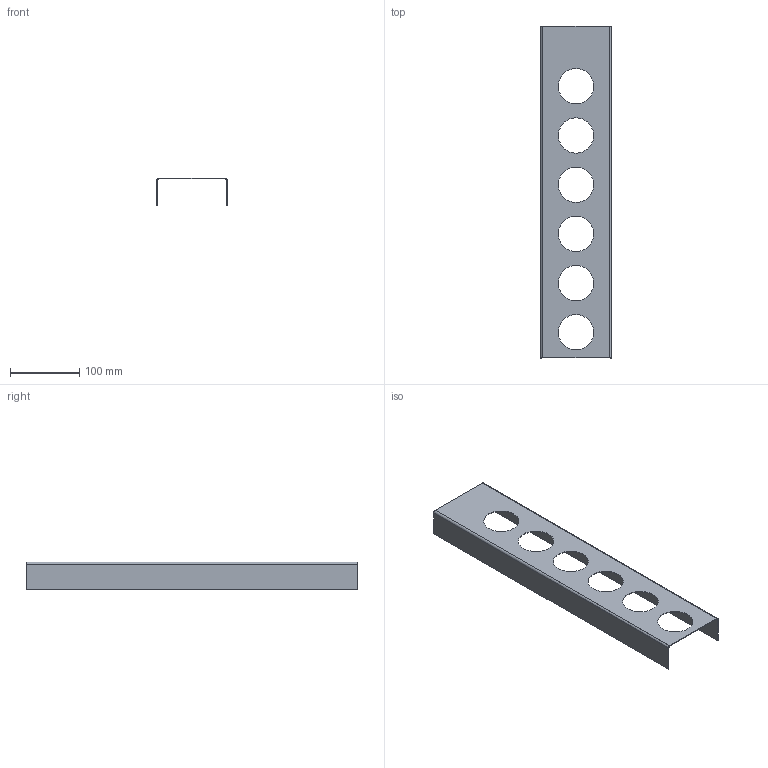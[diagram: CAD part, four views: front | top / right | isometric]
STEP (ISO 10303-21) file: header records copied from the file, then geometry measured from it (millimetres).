
FILE_DESCRIPTION (( 'STEP AP214' ), '1' );
FILE_NAME ('Gewuerzeinsatz_68307-01.STEP', '2010-11-04T09:22:53', ( 'grass' ), ( '' ), 'SwSTEP 2.0', 'SolidWorks 2010', '' );
FILE_SCHEMA (( 'AUTOMOTIVE_DESIGN' ));
Length unit declared in the file: millimetre
Products named in the file (1): Gewuerzeinsatz_68307-01
Bounding box: 102 x 479 x 40 mm (x, y, z)
Volume: 72935.1 mm3; surface area: 148145.3 mm2
Topology: 1 solids, 1 shells, 26 faces, 72 edges, 48 vertices
Faces by surface type: cylinder 16, plane 10
Entity records: 906 total; most frequent: DIRECTION 158, CARTESIAN_POINT 147, ORIENTED_EDGE 144, EDGE_CURVE 72, AXIS2_PLACEMENT_3D 59, VERTEX_POINT 48, VECTOR 40, LINE 40
